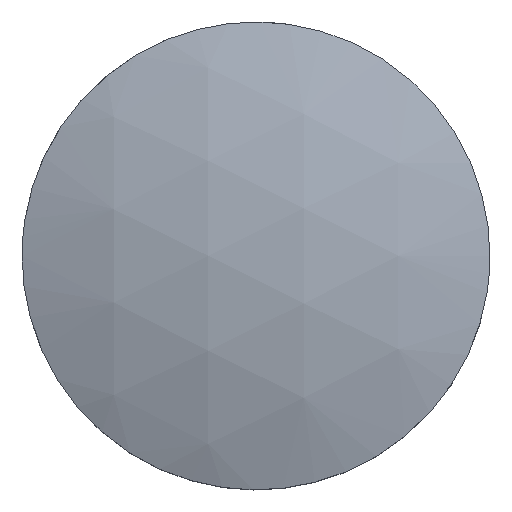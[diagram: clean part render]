
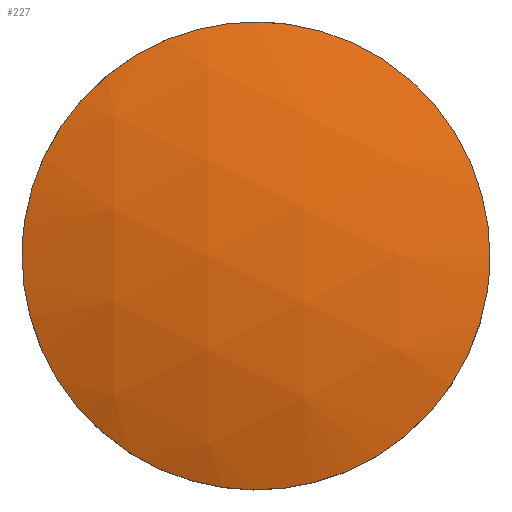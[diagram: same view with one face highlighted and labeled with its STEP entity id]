
A CAD part, top view. The second image highlights one B-rep face of the part: STEP entity #227.
In plain terms, the highlighted spherical face has radius 18 mm.
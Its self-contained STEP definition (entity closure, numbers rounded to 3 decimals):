
#19 = CARTESIAN_POINT ('', (-6.25, 0., -1.12));
#20 = VERTEX_POINT ('', #19);
#26 = CARTESIAN_POINT ('', (6.25, 0., -1.12));
#27 = VERTEX_POINT ('', #26);
#28 = CARTESIAN_POINT ('', (6.25, 0., -1.12));
#29 = CARTESIAN_POINT ('', (6.25, 6.25, -1.12));
#30 = CARTESIAN_POINT ('', (0., 6.25, -1.12));
#31 = CARTESIAN_POINT ('', (-6.25, 6.25, -1.12));
#32 = CARTESIAN_POINT ('', (-6.25, 0., -1.12));
#33 = (
   BOUNDED_CURVE ()
   B_SPLINE_CURVE (2, (#28, #29, #30, #31, #32), .UNSPECIFIED., .F., .U.)
   B_SPLINE_CURVE_WITH_KNOTS ((3, 2, 3), (0., 1.571, 3.142), .UNSPECIFIED.)
   CURVE ()
   GEOMETRIC_REPRESENTATION_ITEM ()
   RATIONAL_B_SPLINE_CURVE ((1., 0.707, 1., 0.707, 1.))
   REPRESENTATION_ITEM ('')
);
#34 = EDGE_CURVE ('', #27, #20, #33, .T.);
#58 = CARTESIAN_POINT ('', (-6.25, 0., -1.12));
#59 = CARTESIAN_POINT ('', (-6.25, -6.25, -1.12));
#60 = CARTESIAN_POINT ('', (0., -6.25, -1.12));
#61 = CARTESIAN_POINT ('', (6.25, -6.25, -1.12));
#62 = CARTESIAN_POINT ('', (6.25, 0., -1.12));
#63 = (
   BOUNDED_CURVE ()
   B_SPLINE_CURVE (2, (#58, #59, #60, #61, #62), .UNSPECIFIED., .F., .U.)
   B_SPLINE_CURVE_WITH_KNOTS ((3, 2, 3), (3.142, 4.712, 6.283), .UNSPECIFIED.)
   CURVE ()
   GEOMETRIC_REPRESENTATION_ITEM ()
   RATIONAL_B_SPLINE_CURVE ((1., 0.707, 1., 0.707, 1.))
   REPRESENTATION_ITEM ('')
);
#64 = EDGE_CURVE ('', #20, #27, #63, .T.);
#218 = ORIENTED_EDGE ('', *, *, #34, .T.);
#219 = ORIENTED_EDGE ('', *, *, #64, .T.);
#220 = EDGE_LOOP ('', (#218, #219));
#221 = FACE_OUTER_BOUND ('', #220, .T.);
#222 = CARTESIAN_POINT ('', (0., 0., -18.));
#223 = DIRECTION ('', (-1., 0., 0.));
#224 = DIRECTION ('', (0., -1., 0.));
#225 = AXIS2_PLACEMENT_3D ('', #222, #223, #224);
#226 = SPHERICAL_SURFACE ('', #225, 18.);
#227 = ADVANCED_FACE ('', (#221), #226, .T.);
